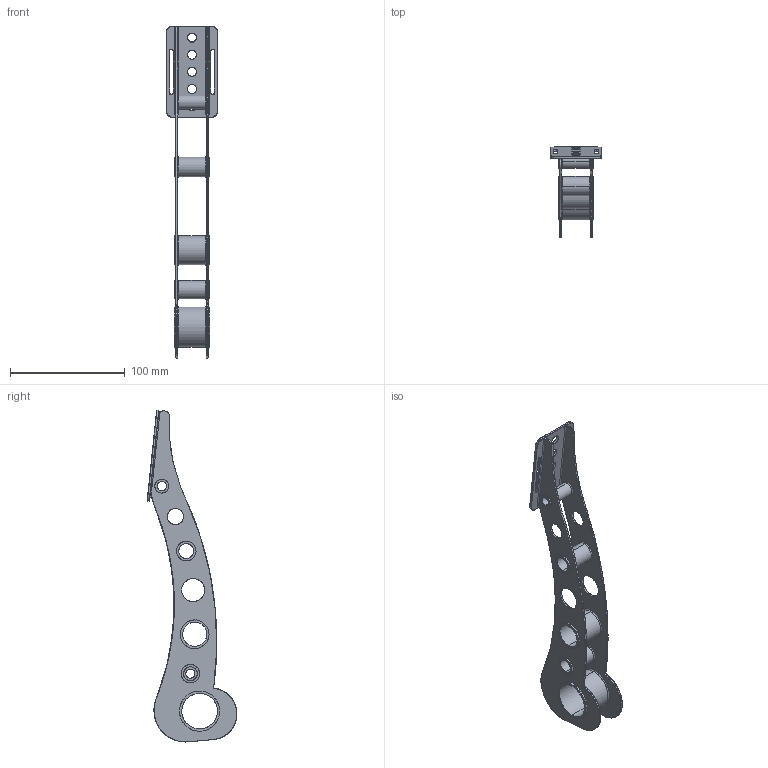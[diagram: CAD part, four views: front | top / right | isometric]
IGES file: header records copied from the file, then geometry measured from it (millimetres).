
Start section: SolidWorks IGES file using analytic representation for surfaces
Global section: file name: C:\Users\cadsoft\Desktop\test\13032013\1010.IGS; native system: SolidWorks 2013; preprocessor: SolidWorks 2013; author: cadsoft; date: 130313.172646; units: millimetre
Bounding box: 45 x 78.16 x 289.08 mm (x, y, z)
Surface area: 57677 mm2 (no closed solid volume)
Topology: 0 solids, 0 shells, 224 faces, 2941 edges, 2934 vertices
Faces by surface type: revolution 113, bspline 111
